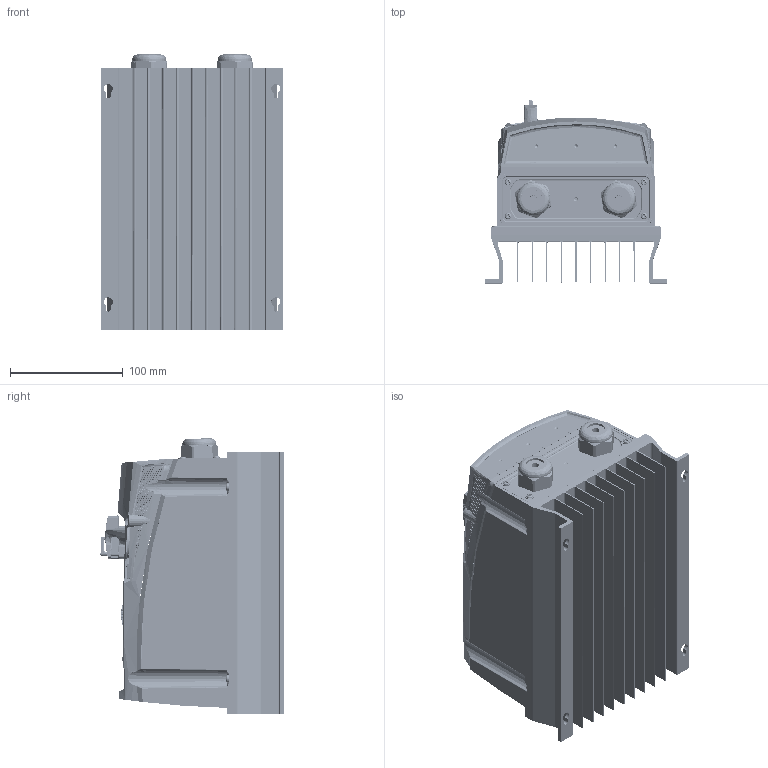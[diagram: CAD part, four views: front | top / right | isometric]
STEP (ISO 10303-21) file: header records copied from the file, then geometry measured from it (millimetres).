
FILE_DESCRIPTION(('CATIA V5 STEP 214'),'2;1');
FILE_NAME('C:\Temp\ddxv7\402843\VERTIMO SIZE A.stp','2019-05-07T07:35:06+00:00',('Leopold Kostal'),('Kostal GmbH'),'CATIA Version 5 Release 19 SP 9 (IN-10)','CATIA V5 STEP AP214','none');
FILE_SCHEMA(('AUTOMOTIVE_DESIGN { 1 0 10303 214 1 1 1 1 }'));
Products named in the file (1): VERTIMO SIZE A
Bounding box: 161 x 162.31 x 244.21 mm (x, y, z)
Surface area: 395894.5 mm2 (no closed solid volume)
Topology: 0 solids, 3861 shells, 6351 faces, 28061 edges, 23797 vertices
Faces by surface type: sphere 2827, cylinder 1266, bspline 821, cone 616, plane 542, torus 279
Entity records: 371042 total; most frequent: CARTESIAN_POINT 167019, ORIENTED_EDGE 29165, EDGE_CURVE 26288, VERTEX_POINT 23797, DIRECTION 22868, AXIS2_PLACEMENT_3D 13336, B_SPLINE_CURVE_WITH_KNOTS 12325, CIRCLE 7806
